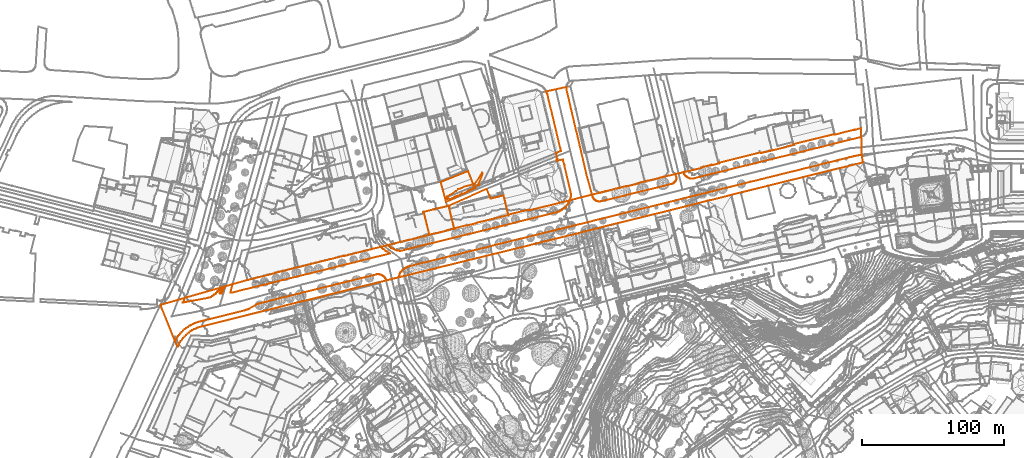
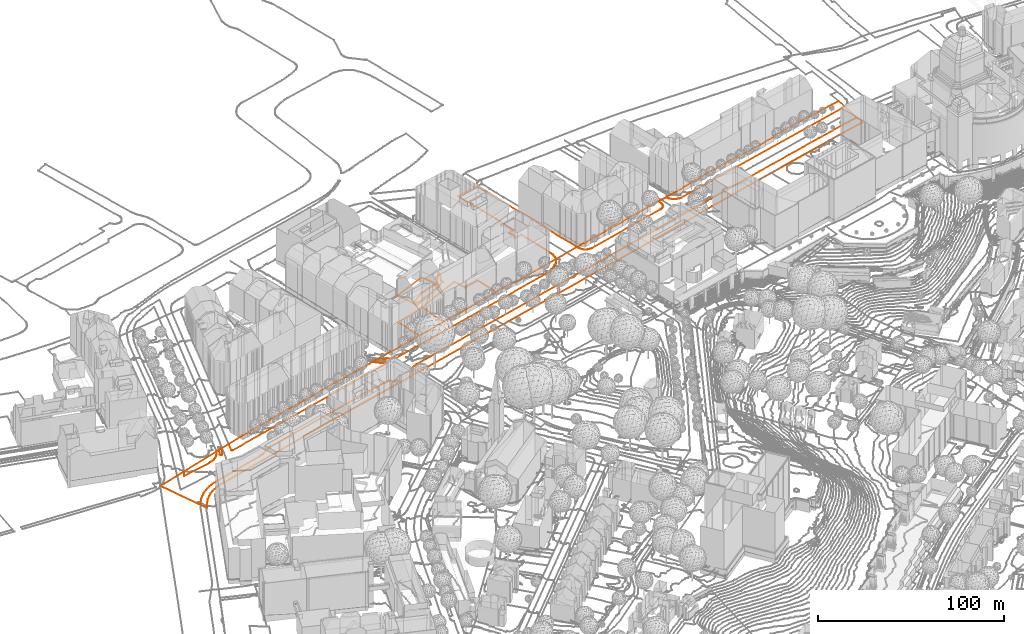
# Not in any storey, part 172 of 494: 6 proxies.
"""IFC2X3 model written with IfcOpenShell, lengths in metres."""

from ifc_helpers import new_model, entity, si_unit, frame, origin_with_axes, place, context, subcontext, project, element, save


model = new_model("IFC2X3")

# Units and contexts
model_context = context("Model", 3, precision=1e-05, world=origin_with_axes())
body_context = subcontext(model_context, "Body", "Model", "MODEL_VIEW")
ifc_project = project(units=[si_unit("AREAUNIT", "SQUARE_METRE"), si_unit("LENGTHUNIT", "METRE")], contexts=[model_context])

# Proxies
proxy_1_placement = place(None, frame((-10.7912679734, 309.6077160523, 537.6436273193), z_axis=(0.0, 0.0, 1.0), x_axis=(1.0, 0.0, 0.0)))
element("IfcBuildingElementProxy", 1, at=proxy_1_placement, Name="Roads Outline 97", ObjectType="NOTDEFINED", context=body_context, shape_type="GeometricCurveSet", body=[
    entity("IfcGeometricCurveSet", [entity("IfcPolyline", [entity("IfcCartesianPoint", [0.0, 0.0, 0.0]), entity("IfcCartesianPoint", [0.3220000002, 0.2200000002, 0.0051085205]), entity("IfcCartesianPoint", [0.6400000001, 0.4470000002, 0.0076578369]), entity("IfcCartesianPoint", [17.4350000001, 5.236, 0.3390557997]), entity("IfcCartesianPoint", [16.5559999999, 3.5150000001, 0.2434427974]), entity("IfcCartesianPoint", [15.6580000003, 1.8050000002, 0.1855998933]), entity("IfcCartesianPoint", [32.8910000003, 5.0460000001, 0.5968490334]), entity("IfcCartesianPoint", [33.7889999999, 5.2640000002, 0.662506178]), entity("IfcCartesianPoint", [34.6669999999, 5.55, 0.678084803]), entity("IfcCartesianPoint", [35.5210000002, 5.902, 0.6947553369]), entity("IfcCartesianPoint", [36.3459999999, 6.3180000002, 0.7197114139]), entity("IfcCartesianPoint", [37.1370000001, 6.7950000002, 0.7399249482]), entity("IfcCartesianPoint", [37.8900000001, 7.331, 0.7703016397]), entity("IfcCartesianPoint", [38.5989999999, 7.9230000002, 0.7964645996]), entity("IfcCartesianPoint", [39.2280000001, 8.5320000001, 0.8205807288]), entity("IfcCartesianPoint", [39.8130000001, 9.1840000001, 0.821366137]), entity("IfcCartesianPoint", [40.3480000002, 9.8770000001, 0.8224283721]), entity("IfcCartesianPoint", [40.8330000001, 10.6070000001, 0.8596125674]), entity("IfcCartesianPoint", [41.2630000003, 11.3690000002, 0.8806098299]), entity("IfcCartesianPoint", [41.6380000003, 12.1610000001, 0.9059954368]), entity("IfcCartesianPoint", [43.5079999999, 12.6950000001, 0.9677806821]), entity("IfcCartesianPoint", [43.173, 11.7250000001, 0.9450813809]), entity("IfcCartesianPoint", [42.7650000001, 10.7830000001, 0.9309542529]), entity("IfcCartesianPoint", [42.2850000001, 9.8760000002, 0.9202557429]), entity("IfcCartesianPoint", [41.7370000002, 9.0080000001, 0.9033874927]), entity("IfcCartesianPoint", [41.6940000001, 8.7720000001, 0.8789350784]), entity("IfcCartesianPoint", [41.73, 8.5350000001, 0.858119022]), entity("IfcCartesianPoint", [41.8400000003, 8.3220000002, 0.8409157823]), entity("IfcCartesianPoint", [42.0130000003, 8.1560000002, 0.8252620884]), entity("IfcCartesianPoint", [42.2310000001, 8.0560000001, 0.8064551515]), entity("IfcCartesianPoint", [42.4700000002, 8.0310000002, 0.7967394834]), entity("IfcCartesianPoint", [42.7030000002, 8.0850000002, 0.7896681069]), entity("IfcCartesianPoint", [42.9070000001, 8.2110000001, 0.7961607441]), entity("IfcCartesianPoint", [43.0589999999, 8.3970000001, 0.8184261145]), entity("IfcCartesianPoint", [43.656, 9.4360000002, 0.8827405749]), entity("IfcCartesianPoint", [44.1299999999, 10.3390000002, 0.8649752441]), entity("IfcCartesianPoint", [44.5520000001, 11.267, 0.8306055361]), entity("IfcCartesianPoint", [44.9199999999, 12.2180000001, 0.8270057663]), entity("IfcCartesianPoint", [45.233, 13.1880000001, 0.8969396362]), entity("IfcCartesianPoint", [50.7760000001, 14.7720000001, 0.9830063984]), entity("IfcCartesianPoint", [49.2760000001, 9.415, 0.8522307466]), entity("IfcCartesianPoint", [49.2600000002, 9.2450000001, 0.8430877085]), entity("IfcCartesianPoint", [49.3020000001, 9.0790000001, 0.8380331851]), entity("IfcCartesianPoint", [49.3969999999, 8.9370000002, 0.844458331]), entity("IfcCartesianPoint", [49.5530000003, 8.8260000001, 0.856460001]), entity("IfcCartesianPoint", [49.7390000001, 8.78, 0.8707221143]), entity("IfcCartesianPoint", [49.929, 8.807, 0.8847520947]), entity("IfcCartesianPoint", [68.6690000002, 13.412, 1.1473330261]), entity("IfcCartesianPoint", [97.5970000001, 20.5480000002, 1.4918887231]), entity("IfcCartesianPoint", [161.6750000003, 36.4310000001, 2.2250358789]), entity("IfcCartesianPoint", [160.6180000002, 36.996, 2.2110733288]), entity("IfcCartesianPoint", [159.594, 37.6190000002, 2.2476789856]), entity("IfcCartesianPoint", [158.6060000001, 38.297, 2.2990830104]), entity("IfcCartesianPoint", [157.6570000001, 39.0280000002, 2.3415802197]), entity("IfcCartesianPoint", [156.8470000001, 39.7010000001, 2.3344924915]), entity("IfcCartesianPoint", [156.071, 40.4130000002, 2.3137635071]), entity("IfcCartesianPoint", [155.3300000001, 41.1610000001, 2.3058332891]), entity("IfcCartesianPoint", [159.7239999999, 42.263, 2.2763394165]), entity("IfcCartesianPoint", [160.6090000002, 41.5690000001, 2.3154459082]), entity("IfcCartesianPoint", [161.5360000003, 40.9310000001, 2.3345369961]), entity("IfcCartesianPoint", [162.5, 40.3520000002, 2.3320183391]), entity("IfcCartesianPoint", [163.4990000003, 39.8330000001, 2.3391091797]), entity("IfcCartesianPoint", [164.5270000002, 39.3770000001, 2.3463029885]), entity("IfcCartesianPoint", [165.5819999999, 38.9850000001, 2.3375812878]), entity("IfcCartesianPoint", [166.6580000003, 38.6600000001, 2.2988757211]), entity("IfcCartesianPoint", [167.753, 38.4010000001, 2.2571390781]), entity("IfcCartesianPoint", [168.8620000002, 38.2110000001, 2.2206703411]), entity("IfcCartesianPoint", [220.503, 50.9810000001, 2.7285862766]), entity("IfcCartesianPoint", [277.5720000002, 65.0850000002, 3.2937418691]), entity("IfcCartesianPoint", [278.6210000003, 65.358, 3.3020232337]), entity("IfcCartesianPoint", [279.6490000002, 65.7030000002, 3.2908173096]), entity("IfcCartesianPoint", [280.6499999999, 66.1190000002, 3.3306107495]), entity("IfcCartesianPoint", [281.6200000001, 66.6030000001, 3.2982397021]), entity("IfcCartesianPoint", [282.554, 67.1530000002, 3.2681064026]), entity("IfcCartesianPoint", [283.3530000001, 67.6980000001, 3.2805751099]), entity("IfcCartesianPoint", [284.1170000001, 68.2920000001, 3.273669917]), entity("IfcCartesianPoint", [284.8429999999, 68.932, 3.349436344]), entity("IfcCartesianPoint", [285.514, 69.601, 3.32281034]), entity("IfcCartesianPoint", [286.1430000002, 70.3100000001, 3.3091591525]), entity("IfcCartesianPoint", [286.7140000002, 70.9500000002, 3.3337806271]), entity("IfcCartesianPoint", [287.2320000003, 71.6340000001, 3.3384879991]), entity("IfcCartesianPoint", [287.693, 72.3570000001, 3.3365703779]), entity("IfcCartesianPoint", [288.0929999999, 73.1160000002, 3.3288259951]), entity("IfcCartesianPoint", [288.4309999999, 73.9040000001, 3.3488089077]), entity("IfcCartesianPoint", [288.5840000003, 74.3330000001, 3.3701027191]), entity("IfcCartesianPoint", [288.7179999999, 74.7690000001, 3.3988707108]), entity("IfcCartesianPoint", [288.9280000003, 75.6500000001, 3.4325784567]), entity("IfcCartesianPoint", [289.0630000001, 76.5460000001, 3.4329571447]), entity("IfcCartesianPoint", [289.1200000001, 77.4500000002, 3.4279456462]), entity("IfcCartesianPoint", [289.1000000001, 78.3550000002, 3.4313172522]), entity("IfcCartesianPoint", [289.003, 79.2560000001, 3.435212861]), entity("IfcCartesianPoint", [288.8289999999, 80.145, 3.455790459]), entity("IfcCartesianPoint", [284.4350000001, 98.5930000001, 3.7690300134]), entity("IfcCartesianPoint", [283.4480000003, 102.7250000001, 3.8030743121]), entity("IfcCartesianPoint", [279.2230000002, 101.6830000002, 3.8767672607]), entity("IfcCartesianPoint", [278.997, 102.598, 3.8832312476]), entity("IfcCartesianPoint", [279.534, 102.814, 3.8976440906]), entity("IfcCartesianPoint", [278.4679999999, 107.202, 3.9446903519]), entity("IfcCartesianPoint", [282.0320000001, 108.6630000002, 3.8431154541]), entity("IfcCartesianPoint", [281.6310000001, 110.3460000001, 3.8833692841]), entity("IfcCartesianPoint", [273.4580000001, 144.6240000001, 4.091053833]), entity("IfcCartesianPoint", [272.5670000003, 148.398, 4.1143554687]), entity("IfcCartesianPoint", [272.3450000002, 149.1510000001, 4.1197076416]), entity("IfcCartesianPoint", [272.0670000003, 149.8860000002, 4.1264099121]), entity("IfcCartesianPoint", [271.733, 150.5970000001, 4.1286861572]), entity("IfcCartesianPoint", [285.8680000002, 153.763, 4.0553883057]), entity("IfcCartesianPoint", [285.838, 153.1730000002, 4.0544215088]), entity("IfcCartesianPoint", [285.8770000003, 152.584, 4.0556783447]), entity("IfcCartesianPoint", [285.986, 152.003, 4.0594784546]), entity("IfcCartesianPoint", [288.9950000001, 139.2310000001, 4.0737255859]), entity("IfcCartesianPoint", [292.8480000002, 122.8380000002, 3.9443182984]), entity("IfcCartesianPoint", [296.645, 106.7210000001, 3.9251955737]), entity("IfcCartesianPoint", [300.0640000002, 92.172, 3.7774139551]), entity("IfcCartesianPoint", [303.9500000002, 77.8360000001, 3.5955859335]), entity("IfcCartesianPoint", [304.2400000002, 76.7660000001, 3.5870727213]), entity("IfcCartesianPoint", [304.429, 76.2210000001, 3.5849634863]), entity("IfcCartesianPoint", [304.679, 75.7010000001, 3.5755636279]), entity("IfcCartesianPoint", [304.9849999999, 75.2120000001, 3.5402482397]), entity("IfcCartesianPoint", [305.3450000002, 74.76, 3.5570950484]), entity("IfcCartesianPoint", [305.753, 74.3520000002, 3.571948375]), entity("IfcCartesianPoint", [306.2039999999, 73.993, 3.5666111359]), entity("IfcCartesianPoint", [306.736, 73.662, 3.5640049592]), entity("IfcCartesianPoint", [307.3050000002, 73.398, 3.5574937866]), entity("IfcCartesianPoint", [307.9020000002, 73.206, 3.5437921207]), entity("IfcCartesianPoint", [308.517, 73.0870000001, 3.5654353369]), entity("IfcCartesianPoint", [309.1430000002, 73.0450000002, 3.5881645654]), entity("IfcCartesianPoint", [309.7690000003, 73.0800000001, 3.5814865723]), entity("IfcCartesianPoint", [310.3859999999, 73.1900000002, 3.5889422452]), entity("IfcCartesianPoint", [359.5500000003, 85.3540000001, 4.122204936]), entity("IfcCartesianPoint", [360.0520000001, 85.4280000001, 4.1309734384]), entity("IfcCartesianPoint", [360.5419999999, 85.5630000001, 4.131662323]), entity("IfcCartesianPoint", [361.0120000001, 85.7550000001, 4.1299970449]), entity("IfcCartesianPoint", [361.4550000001, 86.003, 4.1487502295]), entity("IfcCartesianPoint", [361.8659999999, 86.3020000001, 4.1647222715]), entity("IfcCartesianPoint", [362.2370000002, 86.6490000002, 4.156798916]), entity("IfcCartesianPoint", [362.5630000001, 87.0380000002, 4.1400809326]), entity("IfcCartesianPoint", [362.8450000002, 87.473, 4.1447046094]), entity("IfcCartesianPoint", [363.071, 87.939, 4.1512158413]), entity("IfcCartesianPoint", [363.2379999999, 88.4300000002, 4.1576333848]), entity("IfcCartesianPoint", [363.344, 88.9370000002, 4.1620196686]), entity("IfcCartesianPoint", [363.3859999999, 89.4540000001, 4.1511289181]), entity("IfcCartesianPoint", [363.3640000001, 89.9720000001, 4.136978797]), entity("IfcCartesianPoint", [363.2790000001, 90.483, 4.1305927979]), entity("IfcCartesianPoint", [362.7949999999, 92.378, 4.1812657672]), entity("IfcCartesianPoint", [368.523, 93.7290000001, 4.2551353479]), entity("IfcCartesianPoint", [368.4720000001, 93.645, 4.2478166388]), entity("IfcCartesianPoint", [368.6600000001, 93.0340000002, 4.2298088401]), entity("IfcCartesianPoint", [368.9130000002, 92.4470000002, 4.2269506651]), entity("IfcCartesianPoint", [369.2280000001, 91.8910000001, 4.2277793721]), entity("IfcCartesianPoint", [369.602, 91.3730000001, 4.2294097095]), entity("IfcCartesianPoint", [370.0290000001, 90.8970000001, 4.2281650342]), entity("IfcCartesianPoint", [370.5049999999, 90.4710000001, 4.2346203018]), entity("IfcCartesianPoint", [371.0240000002, 90.098, 4.2298510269]), entity("IfcCartesianPoint", [371.6129999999, 89.7680000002, 4.2286180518]), entity("IfcCartesianPoint", [372.236, 89.5080000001, 4.2214827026]), entity("IfcCartesianPoint", [372.8850000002, 89.3200000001, 4.2092533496]), entity("IfcCartesianPoint", [373.551, 89.2080000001, 4.2108557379]), entity("IfcCartesianPoint", [374.2250000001, 89.1730000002, 4.2123679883]), entity("IfcCartesianPoint", [374.8990000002, 89.2150000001, 4.2100749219]), entity("IfcCartesianPoint", [375.5640000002, 89.334, 4.2192934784]), entity("IfcCartesianPoint", [493.202, 118.4140000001, 4.8165775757]), entity("IfcCartesianPoint", [493.4050000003, 118.4670000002, 4.8204061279]), entity("IfcCartesianPoint", [493.6060000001, 118.527, 4.8241969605]), entity("IfcCartesianPoint", [493.9560000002, 107.4280000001, 4.9908239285]), entity("IfcCartesianPoint", [494.0020000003, 105.9540000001, 5.0971642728]), entity("IfcCartesianPoint", [492.1970000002, 105.6440000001, 5.0957997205]), entity("IfcCartesianPoint", [490.398, 105.297, 5.0838150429]), entity("IfcCartesianPoint", [488.4720000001, 104.9000000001, 4.9782979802]), entity("IfcCartesianPoint", [486.5530000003, 104.4720000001, 5.0774941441]), entity("IfcCartesianPoint", [485.4130000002, 104.1930000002, 5.1054228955]), entity("IfcCartesianPoint", [478.6710000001, 102.5380000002, 5.0623879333]), entity("IfcCartesianPoint", [466.8420000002, 99.6090000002, 5.0688649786]), entity("IfcCartesianPoint", [455.1320000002, 96.682, 5.0254639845]), entity("IfcCartesianPoint", [445.1980000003, 94.2370000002, 4.9445222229]), entity("IfcCartesianPoint", [433.9300000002, 91.456, 4.8489107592]), entity("IfcCartesianPoint", [423.264, 88.797, 4.850466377]), entity("IfcCartesianPoint", [415.6869999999, 86.9370000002, 4.7340635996]), entity("IfcCartesianPoint", [401.2239999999, 83.3550000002, 4.5646100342]), entity("IfcCartesianPoint", [376.8640000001, 77.321, 4.2555193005]), entity("IfcCartesianPoint", [311.071, 61.017, 3.5562041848]), entity("IfcCartesianPoint", [290.9790000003, 56.0430000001, 3.4758251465]), entity("IfcCartesianPoint", [290.1680000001, 55.8420000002, 3.4465723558]), entity("IfcCartesianPoint", [280.8080000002, 53.5430000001, 3.3531432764]), entity("IfcCartesianPoint", [234.3910000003, 42.0730000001, 2.8920779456]), entity("IfcCartesianPoint", [175.25, 27.439, 2.3840037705]), entity("IfcCartesianPoint", [174.4160000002, 27.2140000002, 2.3535679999]), entity("IfcCartesianPoint", [173.6060000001, 26.9160000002, 2.3154784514]), entity("IfcCartesianPoint", [172.8259999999, 26.5460000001, 2.2920153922]), entity("IfcCartesianPoint", [172.0819999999, 26.1070000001, 2.2761845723]), entity("IfcCartesianPoint", [171.3810000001, 25.6040000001, 2.2636034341]), entity("IfcCartesianPoint", [170.727, 25.04, 2.2402028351]), entity("IfcCartesianPoint", [170.1270000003, 24.419, 2.2177166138]), entity("IfcCartesianPoint", [169.6440000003, 23.8260000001, 2.2061567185]), entity("IfcCartesianPoint", [169.2090000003, 23.1970000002, 2.1762475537]), entity("IfcCartesianPoint", [168.8259999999, 22.5350000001, 2.1589072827]), entity("IfcCartesianPoint", [168.4960000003, 21.8450000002, 2.1421243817]), entity("IfcCartesianPoint", [168.2220000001, 21.1310000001, 2.1307387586]), entity("IfcCartesianPoint", [168.0060000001, 20.3970000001, 2.1151770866]), entity("IfcCartesianPoint", [167.8480000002, 19.6490000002, 2.1121143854]), entity("IfcCartesianPoint", [158.9350000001, 17.4500000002, 1.8241074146]), entity("IfcCartesianPoint", [158.7310000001, 18.0630000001, 1.8777580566]), entity("IfcCartesianPoint", [158.463, 18.6500000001, 1.9029850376]), entity("IfcCartesianPoint", [158.1320000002, 19.2040000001, 1.9183265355]), entity("IfcCartesianPoint", [157.7430000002, 19.719, 1.9488952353]), entity("IfcCartesianPoint", [157.3000000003, 20.189, 1.992332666]), entity("IfcCartesianPoint", [156.8089999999, 20.608, 1.9990894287]), entity("IfcCartesianPoint", [156.2749999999, 20.9710000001, 2.0201800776]), entity("IfcCartesianPoint", [155.6890000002, 21.28, 2.0457096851]), entity("IfcCartesianPoint", [155.0730000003, 21.5220000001, 2.0422537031]), entity("IfcCartesianPoint", [154.4339999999, 21.6940000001, 2.0435438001]), entity("IfcCartesianPoint", [153.7790000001, 21.794, 2.0474317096]), entity("IfcCartesianPoint", [153.1170000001, 21.8190000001, 2.0529800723]), entity("IfcCartesianPoint", [152.4569999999, 21.7710000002, 2.0629327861]), entity("IfcCartesianPoint", [151.8059999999, 21.6500000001, 2.0711317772]), entity("IfcCartesianPoint", [100.1869999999, 8.8690000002, 1.5660293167]), entity("IfcCartesianPoint", [70.3080000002, 1.4720000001, 1.2013823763]), entity("IfcCartesianPoint", [69.4080000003, 1.226, 1.2068258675]), entity("IfcCartesianPoint", [68.5300000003, 0.9100000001, 1.2220818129]), entity("IfcCartesianPoint", [67.713, 0.544, 1.2191106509]), entity("IfcCartesianPoint", [66.9250000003, 0.1170000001, 1.1825543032]), entity("IfcCartesianPoint", [62.7420000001, -2.22, 1.1034851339]), entity("IfcCartesianPoint", [62.0300000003, -2.581, 1.0711046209]), entity("IfcCartesianPoint", [61.3020000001, -2.9099999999, 1.0818905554]), entity("IfcCartesianPoint", [60.5630000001, -3.2039999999, 1.0797641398]), entity("IfcCartesianPoint", [59.8119999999, -3.463, 1.0636737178]), entity("IfcCartesianPoint", [59.0490000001, -3.6879999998, 1.0421851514]), entity("IfcCartesianPoint", [27.9169999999, -11.4239999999, 0.2703774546]), entity("IfcCartesianPoint", [26.605, -11.777, 0.2211049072]), entity("IfcCartesianPoint", [25.3130000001, -12.196, 0.1833893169]), entity("IfcCartesianPoint", [24.0440000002, -12.679, 0.1297672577]), entity("IfcCartesianPoint", [22.8000000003, -13.2249999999, 0.0945887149]), entity("IfcCartesianPoint", [21.5860000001, -13.8339999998, 0.0584778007]), entity("IfcCartesianPoint", [20.4040000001, -14.5019999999, -0.0001894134]), entity("IfcCartesianPoint", [19.2570000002, -15.23, -0.0441992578]), entity("IfcCartesianPoint", [18.0730000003, -16.071, -0.0972138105]), entity("IfcCartesianPoint", [16.9360000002, -16.9739999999, -0.1615690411]), entity("IfcCartesianPoint", [15.8500000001, -17.9369999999, -0.2121898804]), entity("IfcCartesianPoint", [14.8170000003, -18.9579999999, -0.3021599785]), entity("IfcCartesianPoint", [13.8400000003, -20.0319999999, -0.4024647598]), entity("IfcCartesianPoint", [13.0619999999, -20.9369999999, -0.4600594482]), entity("IfcCartesianPoint", [12.321, -21.8729999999, -0.5459568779]), entity("IfcCartesianPoint", [11.6189999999, -22.838, -0.595087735]), entity("IfcCartesianPoint", [10.9560000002, -23.831, -0.6577360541]), entity("IfcCartesianPoint", [10.5660000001, -24.4579999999, -0.6850594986]), entity("IfcCartesianPoint", [10.1910000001, -25.095, -0.7179532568]), entity("IfcCartesianPoint", [0.0, 0.0, 0.0])])]),
])
proxy_2_placement = place(None, frame((192.1287320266, 379.7027160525, 541.7885711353), z_axis=(0.0, 0.0, 1.0), x_axis=(1.0, 0.0, 0.0)))
element("IfcBuildingElementProxy", 2, at=proxy_2_placement, Name="Cadastre 6", ObjectType="NOTDEFINED", context=body_context, shape_type="GeometricCurveSet", body=[
    entity("IfcGeometricCurveSet", [entity("IfcPolyline", [entity("IfcCartesianPoint", [0.0, 0.0, 0.0]), entity("IfcCartesianPoint", [0.3500000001, 0.0899999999, 0.0019852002]), entity("IfcCartesianPoint", [26.7680000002, 11.879, -0.019864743]), entity("IfcCartesianPoint", [29.139, 6.5789999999, -0.342509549]), entity("IfcCartesianPoint", [29.5390000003, 4.9789999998, -0.412647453]), entity("IfcCartesianPoint", [38.7680000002, 7.2589999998, -0.3768767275]), entity("IfcCartesianPoint", [42.1710000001, -6.5410000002, -0.9718104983]), entity("IfcCartesianPoint", [20.5300000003, -11.8720000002, -1.1344248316]), entity("IfcCartesianPoint", [20.5520000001, -11.9800000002, -1.1407076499]), entity("IfcCartesianPoint", [19.7120000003, -12.1700000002, -1.1695242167]), entity("IfcCartesianPoint", [19.736, -12.2750000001, -1.1713543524]), entity("IfcCartesianPoint", [12.844, -13.9810000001, -1.2567516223]), entity("IfcCartesianPoint", [12.8250000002, -13.888, -1.249406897]), entity("IfcCartesianPoint", [11.9820000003, -14.0890000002, -1.2447536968]), entity("IfcCartesianPoint", [11.9650000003, -13.9920000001, -1.2425751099]), entity("IfcCartesianPoint", [4.3390000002, -15.8720000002, -1.3404417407]), entity("IfcCartesianPoint", [4.392, -16.0860000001, -1.352550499]), entity("IfcCartesianPoint", [4.0090000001, -16.1800000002, -1.3610452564]), entity("IfcCartesianPoint", [0.0, 0.0, 0.0])])]),
])
proxy_3_placement = place(None, frame((186.5377320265, 396.3497160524, 541.3482641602), z_axis=(0.0, 0.0, 1.0), x_axis=(1.0, 0.0, 0.0)))
element("IfcBuildingElementProxy", 3, at=proxy_3_placement, Name="Cadastre 7", ObjectType="NOTDEFINED", context=body_context, shape_type="GeometricCurveSet", body=[
    entity("IfcGeometricCurveSet", [entity("IfcPolyline", [entity("IfcCartesianPoint", [0.0, 0.0, 0.0]), entity("IfcCartesianPoint", [19.3490000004, 7.757, 0.3874063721]), entity("IfcCartesianPoint", [24.0860000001, -4.1469999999, 0.5794930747]), entity("IfcCartesianPoint", [3.8640000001, -14.044, 0.6168435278]), entity("IfcCartesianPoint", [3.0460000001, -11.156, 0.5862569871]), entity("IfcCartesianPoint", [3.139, -11.1189999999, 0.5987702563]), entity("IfcCartesianPoint", [0.0, 0.0, 0.0])])]),
])
proxy_4_placement = place(None, frame((-10.8872679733, 309.8447160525, 537.6489267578), z_axis=(0.0, 0.0, 1.0), x_axis=(1.0, 0.0, 0.0)))
element("IfcBuildingElementProxy", 4, at=proxy_4_placement, Name="Cadastre 44", ObjectType="NOTDEFINED", context=body_context, shape_type="GeometricCurveSet", body=[
    entity("IfcGeometricCurveSet", [entity("IfcPolyline", [entity("IfcCartesianPoint", [0.0, 0.0, 0.0]), entity("IfcCartesianPoint", [61.4219999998, 17.548, 1.2739363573]), entity("IfcCartesianPoint", [80.7629999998, 22.382, 1.5708132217]), entity("IfcCartesianPoint", [80.7250000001, 22.5349999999, 1.5733459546]), entity("IfcCartesianPoint", [96.8810000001, 26.5389999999, 1.7668315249]), entity("IfcCartesianPoint", [129.6349999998, 34.6569999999, 2.1383421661]), entity("IfcCartesianPoint", [129.6639999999, 34.5389999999, 2.1329694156]), entity("IfcCartesianPoint", [148.912, 39.2899999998, 2.2370598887]), entity("IfcCartesianPoint", [169.1179999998, 44.3589999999, 2.4225662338]), entity("IfcCartesianPoint", [176.398, 46.1639999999, 2.5357889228]), entity("IfcCartesianPoint", [176.426, 46.0529999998, 2.5259612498]), entity("IfcCartesianPoint", [182.5980000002, 47.5839999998, 2.5626514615]), entity("IfcCartesianPoint", [182.574, 47.6809999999, 2.5641640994]), entity("IfcCartesianPoint", [189.486, 49.395, 2.6250744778]), entity("IfcCartesianPoint", [194.8470000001, 50.7239999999, 2.6482612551]), entity("IfcCartesianPoint", [194.872, 50.622, 2.6509833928]), entity("IfcCartesianPoint", [201.6269999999, 52.2949999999, 2.7614913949]), entity("IfcCartesianPoint", [201.5920000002, 52.436, 2.7638895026]), entity("IfcCartesianPoint", [206.5159999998, 53.6549999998, 2.7737496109]), entity("IfcCartesianPoint", [206.54, 53.5569999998, 2.773965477]), entity("IfcCartesianPoint", [207.0249999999, 53.6779999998, 2.7785991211]), entity("IfcCartesianPoint", [207.4079999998, 53.7719999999, 2.7870938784]), entity("IfcCartesianPoint", [207.355, 53.9859999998, 2.7992026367]), entity("IfcCartesianPoint", [214.9810000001, 55.8659999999, 2.8970692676]), entity("IfcCartesianPoint", [214.9980000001, 55.7689999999, 2.8948906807]), entity("IfcCartesianPoint", [215.841, 55.97, 2.8902374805]), entity("IfcCartesianPoint", [215.8599999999, 55.8769999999, 2.8828927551]), entity("IfcCartesianPoint", [222.7519999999, 57.5829999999, 2.9682900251]), entity("IfcCartesianPoint", [222.7280000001, 57.6879999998, 2.9701201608]), entity("IfcCartesianPoint", [223.568, 57.8779999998, 2.9989367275]), entity("IfcCartesianPoint", [223.5460000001, 57.9859999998, 3.0052195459]), entity("IfcCartesianPoint", [245.1869999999, 63.3169999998, 3.1678338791]), entity("IfcCartesianPoint", [245.3659999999, 63.3609999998, 3.1733525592]), entity("IfcCartesianPoint", [245.3089999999, 63.6099999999, 3.1768770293]), entity("IfcCartesianPoint", [259.963, 67.2109999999, 3.3770296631]), entity("IfcCartesianPoint", [260.088, 66.6839999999, 3.3509116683]), entity("IfcCartesianPoint", [281.3650000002, 71.889, 3.5279739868]), entity("IfcCartesianPoint", [281.3399999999, 72.0249999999, 3.5295495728]), entity("IfcCartesianPoint", [283.2609999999, 72.4939999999, 3.5463471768]), entity("IfcCartesianPoint", [283.432, 72.399, 3.5420222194]), entity("IfcCartesianPoint", [309.4190000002, 78.9549999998, 3.7561125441]), entity("IfcCartesianPoint", [310.0970000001, 79.1189999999, 3.7525861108]), entity("IfcCartesianPoint", [310.0860000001, 79.2069999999, 3.7562320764]), entity("IfcCartesianPoint", [313.7209999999, 80.1189999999, 3.7649685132]), entity("IfcCartesianPoint", [313.753, 80.0449999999, 3.7625805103]), entity("IfcCartesianPoint", [319.7220000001, 81.5359999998, 3.8189657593]), entity("IfcCartesianPoint", [319.702, 81.615, 3.8172765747]), entity("IfcCartesianPoint", [323.3429999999, 82.5149999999, 3.8873038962]), entity("IfcCartesianPoint", [323.3810000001, 82.436, 3.8907891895]), entity("IfcCartesianPoint", [323.7450000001, 82.5249999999, 3.916430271]), entity("IfcCartesianPoint", [324.1090000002, 82.6139999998, 3.9467070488]), entity("IfcCartesianPoint", [324.0860000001, 82.7, 3.9493662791]), entity("IfcCartesianPoint", [328.2579999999, 83.733, 3.9609412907]), entity("IfcCartesianPoint", [328.3119999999, 83.5049999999, 3.9520133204]), entity("IfcCartesianPoint", [336.7370000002, 85.591, 4.0828955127]), entity("IfcCartesianPoint", [336.6770000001, 85.8229999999, 4.0897221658]), entity("IfcCartesianPoint", [340.8289999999, 86.8639999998, 4.1295658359]), entity("IfcCartesianPoint", [340.8629999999, 86.7749999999, 4.1267457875]), entity("IfcCartesianPoint", [341.2280000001, 86.865, 4.1321051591]), entity("IfcCartesianPoint", [341.5920000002, 86.9539999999, 4.1319095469]), entity("IfcCartesianPoint", [341.5690000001, 87.0459999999, 4.1313041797]), entity("IfcCartesianPoint", [345.193, 87.9349999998, 4.1151041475]), entity("IfcCartesianPoint", [345.2239999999, 87.8539999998, 4.1154482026]), entity("IfcCartesianPoint", [351.2149999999, 89.341, 4.1946859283]), entity("IfcCartesianPoint", [351.2039999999, 89.4209999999, 4.1913416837]), entity("IfcCartesianPoint", [354.8330000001, 90.3259999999, 4.2855712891]), entity("IfcCartesianPoint", [354.8650000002, 90.2359999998, 4.2840161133]), entity("IfcCartesianPoint", [355.551, 90.409, 4.2928599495]), entity("IfcCartesianPoint", [375.835, 95.1949999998, 4.4126586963]), entity("IfcCartesianPoint", [381.0, 96.4939999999, 4.4655624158]), entity("IfcCartesianPoint", [380.906, 96.872, 4.4899622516]), entity("IfcCartesianPoint", [388.3769999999, 98.7349999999, 4.5136766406]), entity("IfcCartesianPoint", [388.4709999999, 98.3569999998, 4.5144101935]), entity("IfcCartesianPoint", [393.2059999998, 99.5289999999, 4.5795624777]), entity("IfcCartesianPoint", [393.6910000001, 99.649, 4.5731510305]), entity("IfcCartesianPoint", [393.5610000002, 100.1429999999, 4.5814264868]), entity("IfcCartesianPoint", [422.9079999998, 107.4549999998, 4.8196266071]), entity("IfcCartesianPoint", [423.0240000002, 106.9889999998, 4.8242038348]), entity("IfcCartesianPoint", [429.2620000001, 108.5629999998, 4.8952390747]), entity("IfcCartesianPoint", [429.3130000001, 108.355, 4.8970750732]), entity("IfcCartesianPoint", [440.2859999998, 111.054, 4.9725981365]), entity("IfcCartesianPoint", [440.2209999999, 111.284, 4.9713739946]), entity("IfcCartesianPoint", [445.9709999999, 112.7049999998, 4.9493953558]), entity("IfcCartesianPoint", [446.4610000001, 112.8169999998, 4.9449309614]), entity("IfcCartesianPoint", [446.3309999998, 113.3369999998, 4.9419563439]), entity("IfcCartesianPoint", [474.6839999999, 120.2709999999, 4.9698636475]), entity("IfcCartesianPoint", [474.818, 119.7999999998, 4.9739366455]), entity("IfcCartesianPoint", [475.1779999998, 119.8899999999, 4.9755129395]), entity("IfcCartesianPoint", [479.3969999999, 120.9299999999, 4.9239985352]), entity("IfcCartesianPoint", [479.3569999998, 121.0699999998, 4.9236469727]), entity("IfcCartesianPoint", [488.8739999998, 123.4179999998, 4.8805296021]), entity("IfcCartesianPoint", [488.9160000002, 123.291, 4.8793939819]), entity("IfcCartesianPoint", [493.5090000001, 124.419, 4.8152575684]), entity("IfcCartesianPoint", [494.1359999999, 104.497, 5.1091214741]), entity("IfcCartesianPoint", [495.0839999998, 100.4509999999, 5.2106862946]), entity("IfcCartesianPoint", [493.3390000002, 100.0259999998, 5.2594173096]), entity("IfcCartesianPoint", [493.352, 99.9589999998, 5.2579208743]), entity("IfcCartesianPoint", [480.2409999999, 96.7149999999, 5.2989167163]), entity("IfcCartesianPoint", [480.2230000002, 96.7849999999, 5.299081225]), entity("IfcCartesianPoint", [400.3620000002, 77.047, 4.7496073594]), entity("IfcCartesianPoint", [400.3739999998, 76.9839999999, 4.7487656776]), entity("IfcCartesianPoint", [387.27, 73.7189999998, 4.6141490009]), entity("IfcCartesianPoint", [387.2510000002, 73.7859999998, 4.614898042]), entity("IfcCartesianPoint", [385.5099999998, 73.3529999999, 4.5427919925]), entity("IfcCartesianPoint", [358.4029999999, 66.48, 4.0652782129]), entity("IfcCartesianPoint", [308.8050000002, 54.2419999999, 3.4379360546]), entity("IfcCartesianPoint", [292.5320000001, 50.0319999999, 3.5745433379]), entity("IfcCartesianPoint", [174.8760000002, 21.122, 2.3502514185]), entity("IfcCartesianPoint", [154.6200000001, 16.125, 2.0002041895]), entity("IfcCartesianPoint", [100.298, 2.5919999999, 1.7087239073]), entity("IfcCartesianPoint", [28.9500000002, -15.199, 0.3152572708]), entity("IfcCartesianPoint", [27.5989999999, -15.5850000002, 0.27875866]), entity("IfcCartesianPoint", [26.2719999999, -16.0460000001, 0.2152550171]), entity("IfcCartesianPoint", [24.9730000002, -16.581, 0.1725868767]), entity("IfcCartesianPoint", [23.7059999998, -17.189, 0.1467868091]), entity("IfcCartesianPoint", [22.4750000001, -17.8660000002, 0.0785961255]), entity("IfcCartesianPoint", [21.284, -18.611, 0.0498342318]), entity("IfcCartesianPoint", [20.1370000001, -19.4230000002, -0.0065800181]), entity("IfcCartesianPoint", [19.037, -20.297, -0.1190938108]), entity("IfcCartesianPoint", [17.9879999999, -21.2320000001, -0.1221330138]), entity("IfcCartesianPoint", [16.9929999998, -22.2240000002, -0.2064667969]), entity("IfcCartesianPoint", [16.0559999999, -23.2710000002, -0.2622428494]), entity("IfcCartesianPoint", [15.179, -24.368, -0.3500888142]), entity("IfcCartesianPoint", [14.3640000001, -25.513, -0.4348101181]), entity("IfcCartesianPoint", [13.6159999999, -26.702, -0.5337100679]), entity("IfcCartesianPoint", [12.9350000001, -27.932, -0.68611031]), entity("IfcCartesianPoint", [12.3250000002, -29.1970000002, -0.7730606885]), entity("IfcCartesianPoint", [11.7560000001, -28.9500000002, -0.7602424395]), entity("IfcCartesianPoint", [0.0, 0.0, 0.0])])]),
])
proxy_5_placement = place(None, frame((174.3117320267, 375.2797160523, 540.7834452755), z_axis=(0.0, 0.0, 1.0), x_axis=(1.0, 0.0, 0.0)))
element("IfcBuildingElementProxy", 5, at=proxy_5_placement, Name="Cadastre 61", ObjectType="NOTDEFINED", context=body_context, shape_type="GeometricCurveSet", body=[
    entity("IfcGeometricCurveSet", [entity("IfcPolyline", [entity("IfcCartesianPoint", [0.0, 0.0, 0.0]), entity("IfcCartesianPoint", [7.3059999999, 1.794, -0.0205337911]), entity("IfcCartesianPoint", [7.2930000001, 1.845, -0.0192518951]), entity("IfcCartesianPoint", [10.8259999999, 2.7110000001, 0.421527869]), entity("IfcCartesianPoint", [10.8399999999, 2.652, 0.4179606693]), entity("IfcCartesianPoint", [16.909, 4.1410000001, 0.9711017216]), entity("IfcCartesianPoint", [17.48, 4.2810000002, 0.9889391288]), entity("IfcCartesianPoint", [17.4670000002, 4.3330000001, 0.9929866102]), entity("IfcCartesianPoint", [17.8169999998, 4.4230000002, 1.0051258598]), entity("IfcCartesianPoint", [21.8259999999, -11.757, -0.3559193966]), entity("IfcCartesianPoint", [21.341, -11.878, -0.3605530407]), entity("IfcCartesianPoint", [21.3169999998, -11.78, -0.3607689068]), entity("IfcCartesianPoint", [16.3930000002, -12.9989999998, -0.3706290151]), entity("IfcCartesianPoint", [16.4279999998, -13.1399999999, -0.3730271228]), entity("IfcCartesianPoint", [9.673, -14.8129999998, -0.4835351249]), entity("IfcCartesianPoint", [9.648, -14.7109999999, -0.4862572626]), entity("IfcCartesianPoint", [4.287, -16.0399999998, -0.5094440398]), entity("IfcCartesianPoint", [0.557, -0.9889999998, -0.0342321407]), entity("IfcCartesianPoint", [0.2599999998, -1.0629999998, -0.0274477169]), entity("IfcCartesianPoint", [0.0, 0.0, 0.0])])]),
])
proxy_6_placement = place(None, frame((190.5067497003, 385.1707160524, 542.0), z_axis=(0.0, 0.0, 1.0), x_axis=(1.0, 0.0, 0.0)))
element("IfcBuildingElementProxy", 6, at=proxy_6_placement, Name="Contour Line 542.0 m", ObjectType="NOTDEFINED", context=body_context, shape_type="GeometricCurveSet", body=[
    entity("IfcGeometricCurveSet", [entity("IfcPolyline", [entity("IfcCartesianPoint", [4.350742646, 0.0, 0.0]), entity("IfcCartesianPoint", [3.1709823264, -0.7329105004, 0.0]), entity("IfcCartesianPoint", [1.1709823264, -0.514893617, 0.0]), entity("IfcCartesianPoint", [0.1709823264, -0.9265033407, 0.0]), entity("IfcCartesianPoint", [0.0, 0.0, 0.0]), entity("IfcCartesianPoint", [0.4445979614, 1.0, 0.0]), entity("IfcCartesianPoint", [7.0232211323, 5.0, 0.0]), entity("IfcCartesianPoint", [8.1709823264, 6.1018276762, 0.0]), entity("IfcCartesianPoint", [10.8995252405, 7.0, 0.0]), entity("IfcCartesianPoint", [12.8821377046, 8.0, 0.0]), entity("IfcCartesianPoint", [20.1820934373, 10.0, 0.0]), entity("IfcCartesianPoint", [25.1709823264, 17.9014084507, 0.0]), entity("IfcCartesianPoint", [25.4721587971, 17.0, 0.0]), entity("IfcCartesianPoint", [25.2610797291, 16.0, 0.0]), entity("IfcCartesianPoint", [22.6978552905, 10.0, 0.0]), entity("IfcCartesianPoint", [23.1929823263, 9.0, 0.0]), entity("IfcCartesianPoint", [22.1709823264, 9.1586475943, 0.0]), entity("IfcCartesianPoint", [19.1709823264, 6.8973346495, 0.0]), entity("IfcCartesianPoint", [15.160952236, 5.0, 0.0]), entity("IfcCartesianPoint", [13.1709823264, 3.1331460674, 0.0]), entity("IfcCartesianPoint", [11.1709823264, 3.0794285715, 0.0]), entity("IfcCartesianPoint", [8.1709823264, 1.6477987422, 0.0]), entity("IfcCartesianPoint", [6.1709823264, 1.1157495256, 0.0]), entity("IfcCartesianPoint", [4.350742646, 0.0, 0.0])])]),
])

save(model, "model.ifc")
